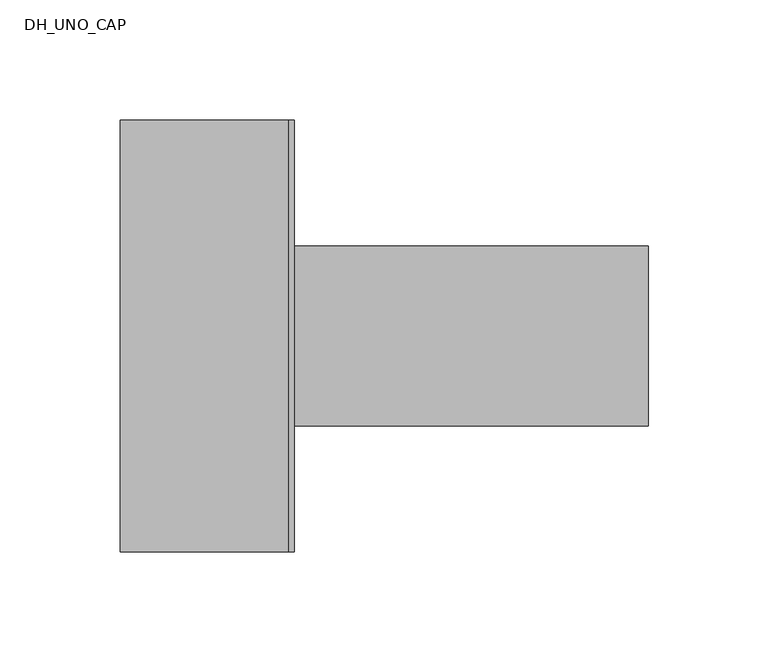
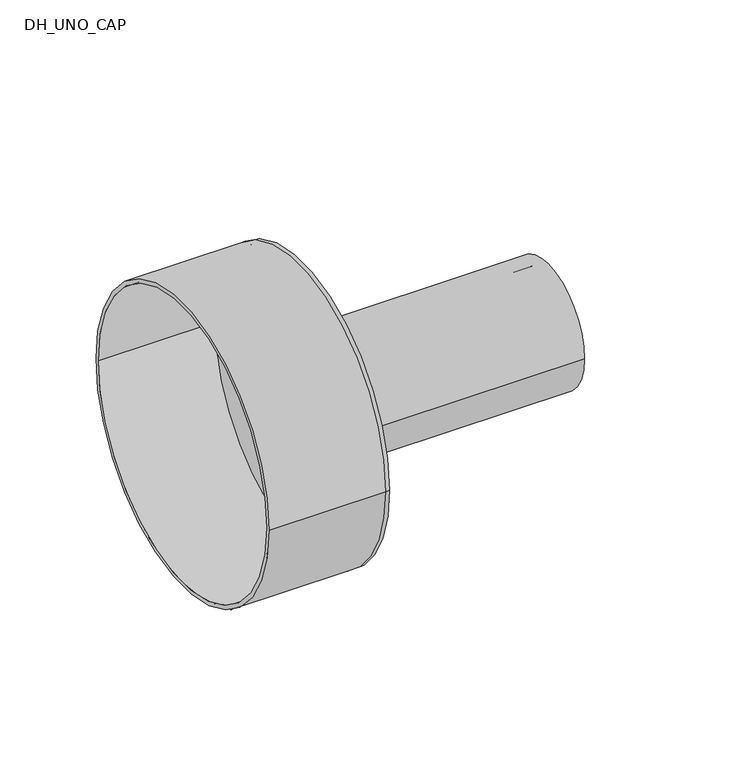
"""IFC4 building model written with IfcOpenShell, lengths in millimetres: pipe fitting geometry, DH_UNO_CAP : RAUVIPEX UNO 11 Heating - Solid Cap."""

from ifc_helpers import new_model, si_unit, point, frame, origin, origin_2d, place, context, project, spatial, polyline, circle_curve, trimmed, segment, composite_curve, outline, extrude, source, transform, mapped, element, save
from ifc_brep_helpers import plane_surface, cylinder_surface, revolved_surface, advanced_brep


def dh_uno_cap_d5310323(model_context):
    return source(origin(), model_context, "Body", "SolidModel", [
        extrude(outline(composite_curve([segment(trimmed(circle_curve(origin_2d(), 37.5), [point((-37.5, 0.0))], [point((37.5, 0.0))], False, "CARTESIAN"), True, "CONTINUOUS"), segment(trimmed(circle_curve(origin_2d(), 37.5), [point((37.5, 0.0))], [point((-37.5, 0.0))], False, "CARTESIAN"), True, "CONTINUOUS")], self_intersect=False), holes=[composite_curve([segment(trimmed(circle_curve(origin_2d(), 30.7), [point((-30.7, 0.0))], [point((30.7, 0.0))], True, "CARTESIAN"), True, "CONTINUOUS"), segment(trimmed(circle_curve(origin_2d(), 30.7), [point((30.7, 0.0))], [point((-30.7, 0.0))], True, "CARTESIAN"), True, "CONTINUOUS")], self_intersect=False)]), frame((0.0, 0.0, 0.0), z_axis=(1.0, 0.0, 0.0), x_axis=(0.0, 1.0, 0.0)), (0.0, 0.0, 1.0), 150.0),
        advanced_brep(
        [(-70.0, -90.0, 0.0), (-70.0, 90.0, 0.0), (-70.0, -87.5, 0.0), (-70.0, 87.5, 0.0), (0.0, -87.5, 0.0), (0.0, 87.5, 0.0), (0.0, -90.0, 0.0), (0.0, 90.0, 0.0), (0.0, 37.5, 0.0), (0.0, -37.5, 0.0), (2.5, -90.0, 0.0), (2.5, 90.0, 0.0), (2.5, -37.5, 0.0), (2.5, 37.5, 0.0)],
        [
            (0, 1, circle_curve(frame((-70.0, 0.0, 0.0), z_axis=(-1.0, 0.0, 0.0), x_axis=(0.0, 1.0, 0.0)), 90.0)),
            (1, 0, circle_curve(frame((-70.0, 0.0, 0.0), z_axis=(-1.0, 0.0, 0.0), x_axis=(0.0, 1.0, 0.0)), 90.0)),
            (2, 3, circle_curve(frame((-70.0, 0.0, 0.0), z_axis=(1.0, 0.0, 0.0), x_axis=(0.0, 1.0, 0.0)), 87.5)),
            (3, 2, circle_curve(frame((-70.0, 0.0, 0.0), z_axis=(1.0, 0.0, 0.0), x_axis=(0.0, 1.0, 0.0)), 87.5)),
            (2, 4),
            (4, 5, circle_curve(frame((0.0, 0.0, 0.0), z_axis=(1.0, 0.0, 0.0), x_axis=(0.0, 1.0, 0.0)), 87.5)),
            (5, 3),
            (5, 4, circle_curve(frame((0.0, 0.0, 0.0), z_axis=(1.0, 0.0, 0.0), x_axis=(0.0, 1.0, 0.0)), 87.5)),
            (0, 6),
            (6, 7, circle_curve(frame((0.0, 0.0, 0.0), z_axis=(-1.0, 0.0, 0.0), x_axis=(0.0, 1.0, 0.0)), 90.0)),
            (7, 1),
            (7, 6, circle_curve(frame((0.0, 0.0, 0.0), z_axis=(-1.0, 0.0, 0.0), x_axis=(0.0, 1.0, 0.0)), 90.0)),
            (8, 9, circle_curve(frame((0.0, 0.0, 0.0), z_axis=(1.0, 0.0, 0.0), x_axis=(0.0, 1.0, 0.0)), 37.5)),
            (9, 8, circle_curve(frame((0.0, 0.0, 0.0), z_axis=(1.0, 0.0, 0.0), x_axis=(0.0, 1.0, 0.0)), 37.5)),
            (10, 11, circle_curve(frame((2.5, 0.0, 0.0), z_axis=(1.0, 0.0, 0.0), x_axis=(0.0, 1.0, 0.0)), 90.0)),
            (11, 10, circle_curve(frame((2.5, 0.0, 0.0), z_axis=(1.0, 0.0, 0.0), x_axis=(0.0, 1.0, 0.0)), 90.0)),
            (12, 13, circle_curve(frame((2.5, 0.0, 0.0), z_axis=(-1.0, 0.0, 0.0), x_axis=(0.0, 1.0, 0.0)), 37.5)),
            (13, 12, circle_curve(frame((2.5, 0.0, 0.0), z_axis=(-1.0, 0.0, 0.0), x_axis=(0.0, 1.0, 0.0)), 37.5)),
            (11, 7),
            (6, 10),
            (8, 13),
            (12, 9),
        ],
        [
            plane_surface(frame((-70.0, 0.0, 0.0), z_axis=(-1.0, 0.0, 0.0), x_axis=(0.0, 0.0, 1.0))),
            revolved_surface(polyline([(0.0, 87.5, 0.0), (-70.0, 87.5, 0.0)]), (-70.0, 0.0, 0.0), (1.0, 0.0, 0.0)),
            cylinder_surface(frame((-70.0, 0.0, 0.0), z_axis=(-1.0, 0.0, 0.0), x_axis=(0.0, 1.0, 0.0)), 90.0),
            plane_surface(frame((0.0, 0.0, 0.0), z_axis=(-1.0, 0.0, 0.0), x_axis=(0.0, 0.0, 1.0))),
            plane_surface(frame((2.5, 0.0, 0.0), z_axis=(1.0, 0.0, 0.0), x_axis=(0.0, 0.0, 1.0))),
            cylinder_surface(frame((0.0, 0.0, 0.0), z_axis=(-1.0, 0.0, 0.0), x_axis=(0.0, 1.0, 0.0)), 90.0),
            revolved_surface(polyline([(0.0, 37.5, 0.0), (2.5, 37.5, 0.0)]), (0.0, 0.0, 0.0), (-1.0, 0.0, 0.0)),
        ],
        [
            (0, [[1, 2], [3, 4]]),
            (1, [[-3, 5, 6, 7]]),
            (1, [[-4, -7, 8, -5]]),
            (2, [[-1, 9, 10, 11]]),
            (2, [[-2, -11, 12, -9]]),
            (3, [[-6, -8], [13, 14]]),
            (4, [[15, 16], [17, 18]]),
            (5, [[-16, 19, -10, 20]]),
            (5, [[-15, -20, -12, -19]]),
            (6, [[21, -17, 22, -13]]),
            (6, [[-21, -14, -22, -18]]),
        ],
    ),
    ])


if __name__ == "__main__":
    model = new_model("IFC4")
    model_context = context("Model", 3, world=origin())
    ifc_project = project(units=[si_unit("LENGTHUNIT", "METRE", prefix="MILLI")], contexts=[model_context])
    site = spatial("IfcSite", under=ifc_project)
    building = spatial("IfcBuilding", under=site)
    placement = place(None, origin())
    dh_uno_cap_shape = dh_uno_cap_d5310323(model_context)
    element("IfcPipeFitting", 1, ObjectType="DH_UNO_CAP : RAUVIPEX UNO 11 Heating - Solid Cap", at=placement, inside=building, context=model_context, shape_type="MappedRepresentation", body=[
        mapped(dh_uno_cap_shape, transform((0.0, 0.0, 0.0), x_axis=(1.0, 0.0, 0.0), y_axis=(0.0, 1.0, 0.0), z_axis=(0.0, 0.0, 1.0))),
    ])
    save(model, "model.ifc")
